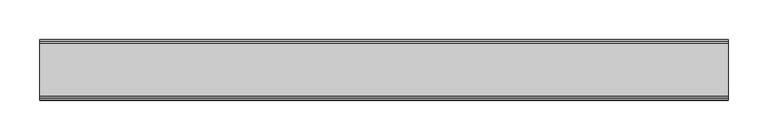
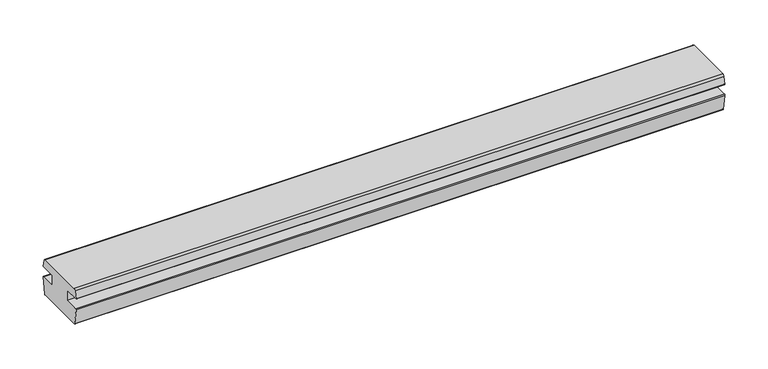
"""IFC4 building model written with IfcOpenShell, lengths in millimetres: proxy geometry, Weiku - Montante - Divisor fixo 02.2.01.040 : Weiku - Montante - Divisor fixo 02.2.01.040."""

from ifc_helpers import new_model, si_unit, point, frame, frame_2d, origin, place, context, project, spatial, polyline, circle_curve, trimmed, segment, composite_curve, outline, extrude, source, transform, mapped, element, save


def generic_models_9251f93f(model_context):
    return source(origin(), model_context, "Body", "SweptSolid", [
        extrude(outline(composite_curve([segment(polyline([(-33.0007245, 50.0), (33.0007245, 50.0)]), True, "CONTINUOUS"), segment(trimmed(circle_curve(frame_2d((33.0007245, 47.0)), 3.0), [point((33.0007245, 50.0))], [point((35.898502, 47.7764571))], False, "CARTESIAN"), True, "CONTINUOUS"), segment(polyline([(35.898502, 47.7764571), (38.4496907, 38.2552914)]), True, "CONTINUOUS"), segment(trimmed(circle_curve(frame_2d((37.8701352, 38.1)), 0.6), [point((38.4496907, 38.2552914))], [point((37.8701352, 37.5))], False, "CARTESIAN"), True, "CONTINUOUS"), segment(polyline([(37.8701352, 37.5), (17.5004577, 37.5), (17.5004577, 23.5), (37.5139562, 23.5)]), True, "CONTINUOUS"), segment(trimmed(circle_curve(frame_2d((37.5139562, 22.5)), 1.0), [point((37.5139562, 23.5))], [point((38.5006041, 22.3371317))], False, "CARTESIAN"), True, "CONTINUOUS"), segment(polyline([(38.5006041, 22.3371317), (34.9515483, 0.8371317)]), True, "CONTINUOUS"), segment(trimmed(circle_curve(frame_2d((33.9649005, 1.0)), 1.0), [point((34.9515483, 0.8371317))], [point((33.9649005, 0.0))], False, "CARTESIAN"), True, "CONTINUOUS"), segment(polyline([(33.9649005, 0.0), (-33.9649005, 0.0)]), True, "CONTINUOUS"), segment(trimmed(circle_curve(frame_2d((-33.9649005, 1.0)), 1.0), [point((-33.9649005, 0.0))], [point((-34.9515483, 0.8371317))], False, "CARTESIAN"), True, "CONTINUOUS"), segment(polyline([(-34.9515483, 0.8371317), (-38.5006041, 22.3371317)]), True, "CONTINUOUS"), segment(trimmed(circle_curve(frame_2d((-37.5139562, 22.5)), 1.0), [point((-38.5006041, 22.3371317))], [point((-37.5139562, 23.5))], False, "CARTESIAN"), True, "CONTINUOUS"), segment(polyline([(-37.5139562, 23.5), (-17.5004577, 23.5), (-17.5004577, 37.5), (-37.8701352, 37.5)]), True, "CONTINUOUS"), segment(trimmed(circle_curve(frame_2d((-37.8701352, 38.1)), 0.6), [point((-37.8701352, 37.5))], [point((-38.4496907, 38.2552914))], False, "CARTESIAN"), True, "CONTINUOUS"), segment(polyline([(-38.4496907, 38.2552914), (-35.898502, 47.7764571)]), True, "CONTINUOUS"), segment(trimmed(circle_curve(frame_2d((-33.0007245, 47.0)), 3.0), [point((-35.898502, 47.7764571))], [point((-33.0007245, 50.0))], False, "CARTESIAN"), True, "CONTINUOUS")], self_intersect=False)), frame((-434.5, 0.0, 0.0), z_axis=(1.0, 0.0, 0.0), x_axis=(0.0, 1.0, 0.0)), (0.0, 0.0, 1.0), 869.0),
    ])


if __name__ == "__main__":
    model = new_model("IFC4")
    model_context = context("Model", 3, world=origin())
    ifc_project = project(units=[si_unit("LENGTHUNIT", "METRE", prefix="MILLI")], contexts=[model_context])
    site = spatial("IfcSite", under=ifc_project)
    building = spatial("IfcBuilding", under=site)
    placement = place(None, origin())
    generic_models_shape = generic_models_9251f93f(model_context)
    element("IfcBuildingElementProxy", 1, Name="Weiku - Montante - Divisor fixo 02.2.01.040 : Weiku - Montante - Divisor fixo 02.2.01.040", ObjectType="Weiku - Montante - Divisor fixo 02.2.01.040 : Weiku - Montante - Divisor fixo 02.2.01.040", at=placement, inside=building, context=model_context, shape_type="MappedRepresentation", body=[
        mapped(generic_models_shape, transform((0.0, 0.0, 0.0), x_axis=(1.0, 0.0, 0.0), y_axis=(0.0, 1.0, 0.0), z_axis=(0.0, 0.0, 1.0))),
    ])
    save(model, "model.ifc")
